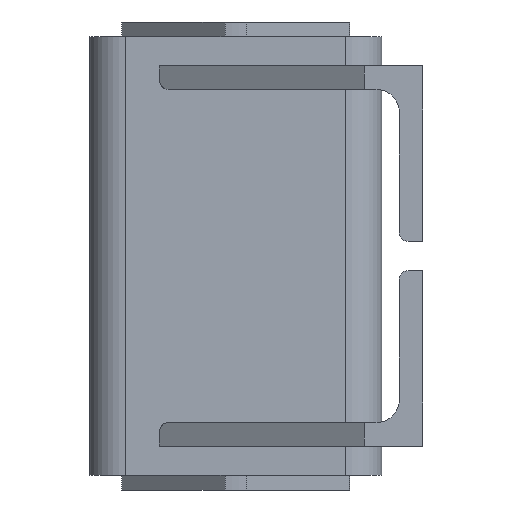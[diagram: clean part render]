
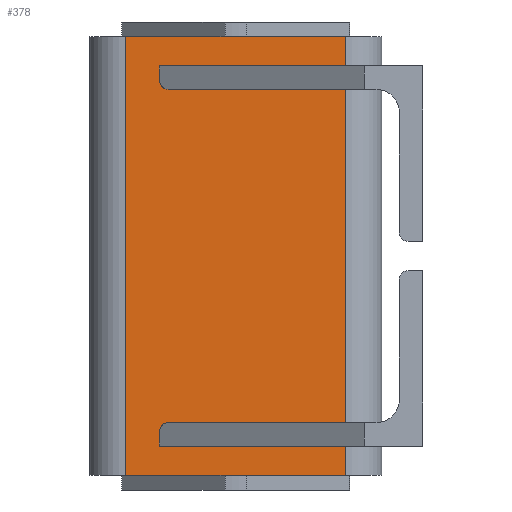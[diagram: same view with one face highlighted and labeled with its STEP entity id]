
A CAD part, front view. The second image highlights one B-rep face of the part: STEP entity #378.
In plain terms, the highlighted planar face has unit normal (0, -1, 0).
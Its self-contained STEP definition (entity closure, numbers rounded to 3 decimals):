
#339=CARTESIAN_POINT('',(37.5,-50.,0.0));
#340=DIRECTION('',(0.0,-1.0,0.0));
#341=DIRECTION('',(0.0,0.0,-1.0));
#342=AXIS2_PLACEMENT_3D('',#339,#340,#341);
#343=PLANE('',#342);
#344=CARTESIAN_POINT('',(37.5,-50.,150.0));
#345=VERTEX_POINT('',#344);
#346=CARTESIAN_POINT('',(-37.5,-50.,150.0));
#347=VERTEX_POINT('',#346);
#348=CARTESIAN_POINT('',(37.5,-50.,150.0));
#349=DIRECTION('',(-1.0,0.0,0.0));
#350=VECTOR('',#349,75.);
#351=LINE('',#348,#350);
#352=EDGE_CURVE('',#345,#347,#351,.T.);
#353=ORIENTED_EDGE('',*,*,#352,.T.);
#354=CARTESIAN_POINT('',(-37.5,-50.,0.0));
#355=VERTEX_POINT('',#354);
#356=CARTESIAN_POINT('',(-37.5,-50.,0.0));
#357=DIRECTION('',(0.0,0.0,1.0));
#358=VECTOR('',#357,150.0);
#359=LINE('',#356,#358);
#360=EDGE_CURVE('',#355,#347,#359,.T.);
#361=ORIENTED_EDGE('',*,*,#360,.F.);
#362=CARTESIAN_POINT('',(37.5,-50.,0.0));
#363=VERTEX_POINT('',#362);
#364=CARTESIAN_POINT('',(-37.5,-50.,0.0));
#365=DIRECTION('',(1.0,0.0,0.0));
#366=VECTOR('',#365,75.);
#367=LINE('',#364,#366);
#368=EDGE_CURVE('',#355,#363,#367,.T.);
#369=ORIENTED_EDGE('',*,*,#368,.T.);
#370=CARTESIAN_POINT('',(37.5,-50.,0.0));
#371=DIRECTION('',(0.0,0.0,1.0));
#372=VECTOR('',#371,150.0);
#373=LINE('',#370,#372);
#374=EDGE_CURVE('',#363,#345,#373,.T.);
#375=ORIENTED_EDGE('',*,*,#374,.T.);
#376=EDGE_LOOP('',(#353,#361,#369,#375));
#377=FACE_OUTER_BOUND('',#376,.T.);
#378=ADVANCED_FACE('',(#377),#343,.T.);
